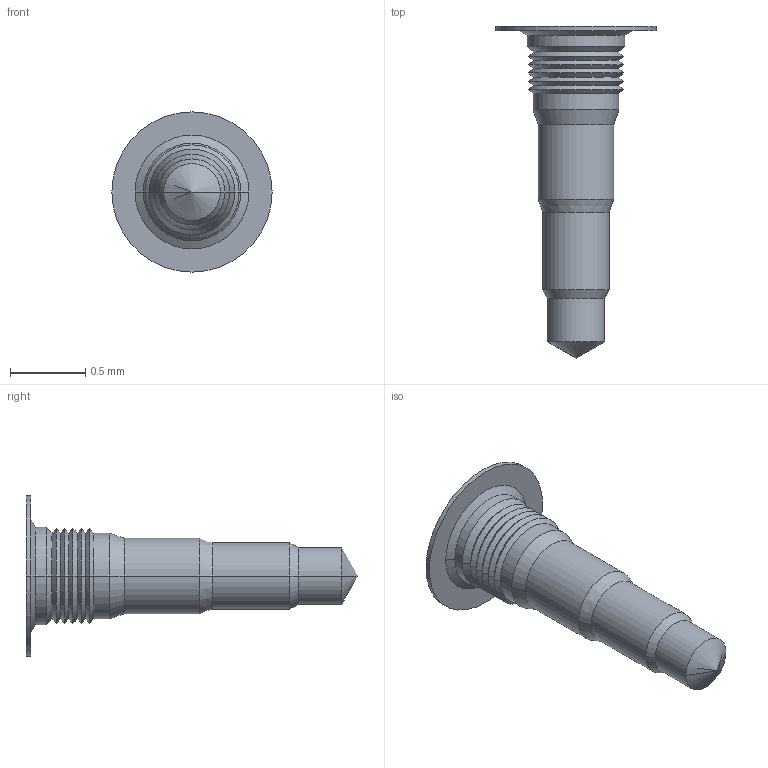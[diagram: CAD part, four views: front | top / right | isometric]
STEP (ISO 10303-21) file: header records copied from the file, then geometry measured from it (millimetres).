
FILE_DESCRIPTION((''),'2;1');
FILE_NAME('0006-3D.stp','2011-04-18T11:02:10',(''),(''),'Mechanical Desktop 2009','Mechanical Desktop 2009',', , ');
FILE_SCHEMA(('CONFIG_CONTROL_DESIGN'));
Length unit declared in the file: millimetre
Products named in the file (1): Product
Bounding box: 1.06 x 2.2 x 1.06 mm (x, y, z)
Volume: 0.4 mm3; surface area: 5.1 mm2
Topology: 1 solids, 1 shells, 46 faces, 92 edges, 47 vertices
Faces by surface type: cone 32, cylinder 12, plane 2
Entity records: 1243 total; most frequent: DIRECTION 230, CARTESIAN_POINT 184, ORIENTED_EDGE 180, AXIS2_PLACEMENT_3D 93, EDGE_CURVE 90, VERTEX_POINT 47, EDGE_LOOP 47, CIRCLE 46
